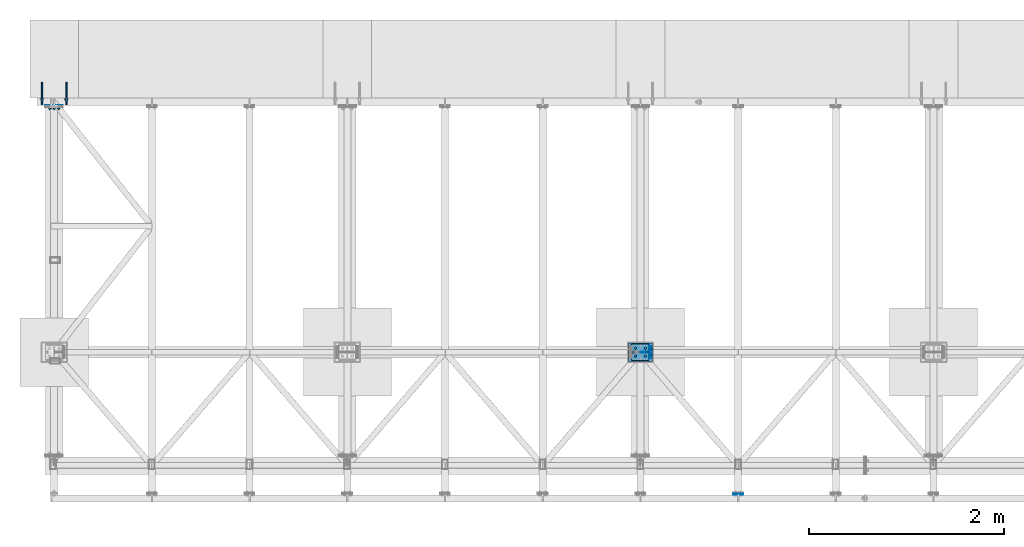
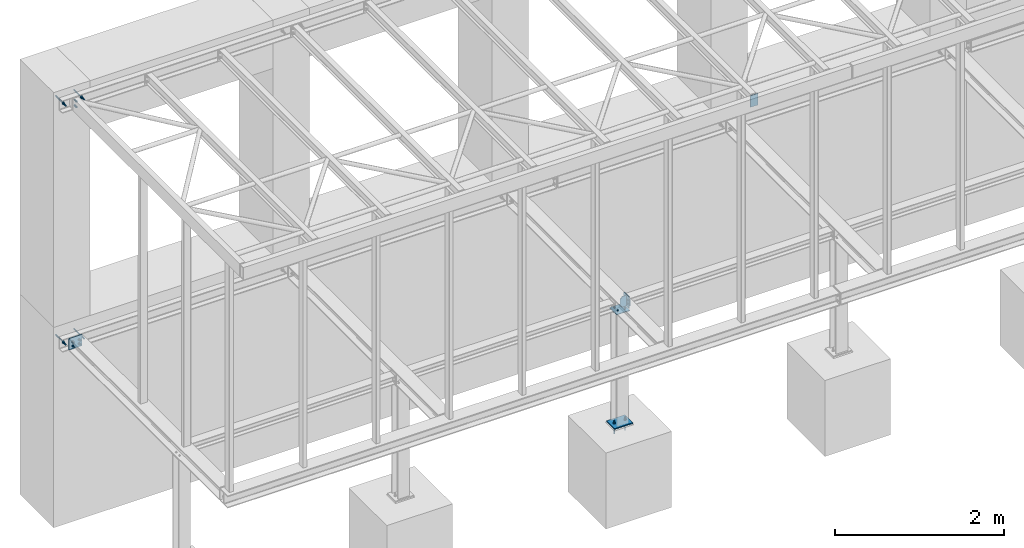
# One storey, part 14 of 22: 7 discrete accessories, 7 mechanical fasteners, 7 elements without a shape of their own.
"""IFC2X3 building model written with IfcOpenShell, lengths in millimetres."""

from ifc_helpers import new_model, si_unit, frame, frame_2d, origin_with_axes, origin_2d_with_axis, place, context, subcontext, project, spatial, polyline, circle_curve, parameter, trimmed, segment, composite_curve, circle, outline, extrude, source, transform, mapped, material, type_object, element, aggregate, save


model = new_model("IFC2X3")

# Units and contexts
model_context = context("Model", 3, precision=1e-05, world=origin_with_axes())
body_context = subcontext(model_context, "Body", "Model", "MODEL_VIEW")
ifc_project = project(units=[si_unit("LENGTHUNIT", "METRE", prefix="MILLI"), si_unit("AREAUNIT", "SQUARE_METRE"), si_unit("VOLUMEUNIT", "CUBIC_METRE"), si_unit("MASSUNIT", "GRAM", prefix="KILO"), si_unit("TIMEUNIT", "SECOND"), si_unit("PLANEANGLEUNIT", "RADIAN"), si_unit("SOLIDANGLEUNIT", "STERADIAN"), si_unit("THERMODYNAMICTEMPERATUREUNIT", "DEGREE_CELSIUS"), si_unit("LUMINOUSINTENSITYUNIT", "LUMEN")], contexts=[model_context])

# Site, building, storey
site_placement = place(None, origin_with_axes())
site = spatial("IfcSite", under=ifc_project, at=site_placement, Name="Undefined", CompositionType="ELEMENT")
building_placement = place(site_placement, origin_with_axes())
building = spatial("IfcBuilding", under=site, at=building_placement, Name="Undefined", CompositionType="ELEMENT")
storey_placement = place(building_placement, origin_with_axes())
storey = spatial("IfcBuildingStorey", under=building, at=storey_placement, Name="Undefined", CompositionType="ELEMENT", Elevation=0.0)

# Assembly, mechanical fastener
assembly_1_placement = place(storey_placement, origin_with_axes())
assembly_1 = element("IfcElementAssembly", 1, at=assembly_1_placement, inside=storey, Name="Steel Assembly", AssemblyPlace="NOTDEFINED", PredefinedType="RIGID_FRAME")
ifc_material_1 = material(Name="Undefined")
discrete_accessory_type_1 = type_object("IfcDiscreteAccessoryType", Name="Bolt assembly")
shared_shape_1 = source(origin_with_axes(), body_context, "Body", "SweptSolid", [
    extrude(circle(Radius=9.0, at=origin_2d_with_axis()), frame((0.0, -15.0, 0.0), z_axis=(0.0, 1.0, 0.0), x_axis=(1.0, 0.0, 0.0)), (0.0, 0.0, 1.0), 15.1),
    extrude(outline(polyline([(7.73649338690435, 0.0), (3.86824669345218, 6.69999980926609), (-3.86824669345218, 6.69999980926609), (-7.73649338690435, 0.0), (-3.86824669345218, -6.69999980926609), (3.86824669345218, -6.69999980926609), (7.73649338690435, 0.0)])), frame((0.0, -147.0, 0.0), z_axis=(0.0, 1.0, 0.0), x_axis=(1.0, 0.0, 0.0)), (0.0, 0.0, 1.0), 132.0),
    extrude(circle(Radius=8.0, at=origin_2d_with_axis()), frame((0.0, -15.0, 0.0), z_axis=(0.0, 1.0, 0.0), x_axis=(1.0, 0.0, 0.0)), (0.0, 0.0, 1.0), 58.0),
    extrude(circle(Radius=15.0, at=origin_2d_with_axis()), frame((0.0, 0.0, 0.0), z_axis=(0.0, 1.0, 0.0), x_axis=(1.0, 0.0, 0.0)), (0.0, 0.0, 1.0), 3.0),
    extrude(outline(polyline([(15.4441197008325, 0.0), (7.72205985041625, 13.3750000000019), (-7.72205985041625, 13.3750000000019), (-15.4441197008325, 0.0), (-7.72205985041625, -13.3750000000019), (7.72205985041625, -13.3750000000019), (15.4441197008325, 0.0)])), frame((0.0, 3.0, 0.0), z_axis=(0.0, 1.0, 0.0), x_axis=(1.0, 0.0, 0.0)), (0.0, 0.0, 1.0), 13.0),
])
mechanical_fastener_1_placement = place(assembly_1_placement, frame((5975.0, 1260.0, -1975.0), z_axis=(0.0, -1.0, 0.0), x_axis=(1.0, 0.0, 0.0)))
mechanical_fastener_1 = element("IfcMechanicalFastener", 2, at=mechanical_fastener_1_placement, type_object=discrete_accessory_type_1, material=ifc_material_1, Name="Bolt assembly", NominalDiameter=16.0, NominalLength=58.0, context=body_context, shape_type="MappedRepresentation", body=[
    mapped(shared_shape_1, transform((0.0, 0.0, 0.0))),
    mapped(shared_shape_1, transform((150.0, 0.0, 0.0))),
])

# Assembly, discrete accessory
assembly_2_placement = place(storey_placement, origin_with_axes())
assembly_2 = element("IfcElementAssembly", 3, at=assembly_2_placement, inside=storey, Name="Steel Assembly", AssemblyPlace="NOTDEFINED", PredefinedType="RIGID_FRAME")
ifc_material_2 = material(Name="STEEL/S235JR")
discrete_accessory_type_2 = type_object("IfcDiscreteAccessoryType", Name="PLECH")
discrete_accessory_1_placement = place(assembly_2_placement, frame((7000.0, -195.0, 3127.5), z_axis=(0.0, 1.0, 0.0), x_axis=(0.0, 0.0, 1.0)))
discrete_accessory_1 = element("IfcDiscreteAccessory", 4, at=discrete_accessory_1_placement, type_object=discrete_accessory_type_2, material=ifc_material_2, Name="PLECH", ObjectType="PL10*100", context=body_context, shape_type="SweptSolid", body=[
    extrude(outline(polyline([(0.0, 0.0), (166.000015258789, 0.0), (166.000015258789, 100.0), (-9.09494701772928e-13, 100.0), (0.0, 0.0)])), frame((0.0, 0.0, -5.0), z_axis=(0.0, 0.0, 1.0), x_axis=(1.0, 0.0, 0.0)), (0.0, 0.0, 1.0), 10.0),
])
aggregate(assembly_2, [discrete_accessory_1])

# Discrete accessory
discrete_accessory_2_placement = place(assembly_1_placement, frame((6140.0, 1346.0, -345.0), z_axis=(0.0, 0.0, 1.0), x_axis=(-1.0, 0.0, 0.0)))
discrete_accessory_2 = element("IfcDiscreteAccessory", 5, at=discrete_accessory_2_placement, type_object=discrete_accessory_type_2, material=ifc_material_2, Name="PLECH", ObjectType="PL10*172", context=body_context, shape_type="SweptSolid", body=[
    extrude(outline(polyline([(0.0, 0.0), (180.0, 0.0), (180.0, 172.0), (0.0, 172.0), (0.0, 0.0)])), frame((0.0, 0.0, -5.0), z_axis=(0.0, 0.0, 1.0), x_axis=(1.0, 0.0, 0.0)), (0.0, 0.0, 1.0), 10.0),
])

# Assembly, discrete accessory
assembly_3_placement = place(storey_placement, origin_with_axes())
assembly_3 = element("IfcElementAssembly", 6, at=assembly_3_placement, inside=storey, Name="Steel Assembly", AssemblyPlace="NOTDEFINED", PredefinedType="RIGID_FRAME")
discrete_accessory_3_placement = place(assembly_3_placement, frame((6155.0, 1200.0, -299.0), z_axis=(-1.0, 0.0, 0.0), x_axis=(0.0, 0.0, 1.0)))
discrete_accessory_3 = element("IfcDiscreteAccessory", 7, at=discrete_accessory_3_placement, type_object=discrete_accessory_type_2, material=ifc_material_2, Name="PLECH", ObjectType="PL10*98", context=body_context, shape_type="SweptSolid", body=[
    extrude(outline(polyline([(0.0, 0.0), (98.0, 4.54747350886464e-13), (98.0, 120.0), (0.0, 120.0), (0.0, 0.0)])), frame((0.0, 0.0, -5.0), z_axis=(0.0, 0.0, 1.0), x_axis=(1.0, 0.0, 0.0)), (0.0, 0.0, 1.0), 10.0),
])
aggregate(assembly_3, [discrete_accessory_3])

# Assembly, discrete accessories
assembly_4_placement = place(storey_placement, origin_with_axes())
assembly_4 = element("IfcElementAssembly", 8, at=assembly_4_placement, inside=storey, Name="Steel Assembly", AssemblyPlace="NOTDEFINED", PredefinedType="RIGID_FRAME")
discrete_accessory_4_placement = place(assembly_4_placement, frame((6140.0, 1260.0, -174.0), z_axis=(0.0, -1.0, 0.0), x_axis=(-1.0, 0.0, 0.0)))
discrete_accessory_4 = element("IfcDiscreteAccessory", 9, at=discrete_accessory_4_placement, type_object=discrete_accessory_type_2, material=ifc_material_2, Name="PLECH", ObjectType="PL8*86", context=body_context, shape_type="SweptSolid", body=[
    extrude(outline(composite_curve([segment(polyline([(0.0, 0.0), (60.5, 0.0)]), True, "CONTINUOUS"), segment(trimmed(circle_curve(frame_2d((85.5, 0.0), x_axis=(-1.0, 0.0)), 25.0), [parameter(0.0)], [parameter(4.71238898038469)], False, "PARAMETER"), True, "CONTINUOUS"), segment(polyline([(85.5, 25.0), (85.5, 127.0)]), True, "CONTINUOUS"), segment(trimmed(circle_curve(frame_2d((85.5, 152.0), x_axis=(0.0, -1.0)), 25.0), [parameter(0.0)], [parameter(4.71238898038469)], False, "PARAMETER"), True, "CONTINUOUS"), segment(polyline([(60.5, 152.0), (0.0, 152.0), (0.0, 0.0)]), True, "DISCONTINUOUS")], self_intersect=False)), frame((0.0, 0.0, -4.0), z_axis=(0.0, 0.0, 1.0), x_axis=(1.0, 0.0, 0.0)), (0.0, 0.0, 1.0), 8.0),
])
discrete_accessory_5_placement = place(assembly_4_placement, frame((6145.0, 1200.0, -332.0), z_axis=(-1.0, 0.0, 0.0), x_axis=(0.0, 0.0, 1.0)))
discrete_accessory_5 = element("IfcDiscreteAccessory", 10, at=discrete_accessory_5_placement, type_object=discrete_accessory_type_2, material=ifc_material_2, Name="PLECH", ObjectType="PL10*120", context=body_context, shape_type="SweptSolid", body=[
    extrude(outline(polyline([(0.0, 0.0), (164.0, 4.54747350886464e-13), (164.0, 120.0), (0.0, 120.0), (0.0, 0.0)])), frame((0.0, 0.0, -5.0), z_axis=(0.0, 0.0, 1.0), x_axis=(1.0, 0.0, 0.0)), (0.0, 0.0, 1.0), 10.0),
])

# Discrete accessory
discrete_accessory_6_placement = place(assembly_1_placement, frame((6175.0, 1356.0, -1982.5), z_axis=(0.0, 0.0, 1.0), x_axis=(-1.0, 0.0, 0.0)))
discrete_accessory_6 = element("IfcDiscreteAccessory", 11, at=discrete_accessory_6_placement, type_object=discrete_accessory_type_2, material=ifc_material_2, Name="PLECH", ObjectType="PL15*192", context=body_context, shape_type="SweptSolid", body=[
    extrude(outline(polyline([(0.0, 0.0), (250.0, 0.0), (250.0, 192.0), (0.0, 192.0), (0.0, 0.0)])), frame((0.0, 0.0, -7.5), z_axis=(0.0, 0.0, 1.0), x_axis=(1.0, 0.0, 0.0)), (0.0, 0.0, 1.0), 15.0),
])

# Assembly, discrete accessory
assembly_5_placement = place(storey_placement, origin_with_axes())
assembly_5 = element("IfcElementAssembly", 12, at=assembly_5_placement, inside=storey, Name="Steel Assembly", AssemblyPlace="NOTDEFINED", PredefinedType="RIGID_FRAME")
discrete_accessory_7_placement = place(assembly_5_placement, frame((-40.0, 3780.0, -168.0), z_axis=(0.0, 1.0, 0.0), x_axis=(1.0, 0.0, 0.0)))
discrete_accessory_7 = element("IfcDiscreteAccessory", 13, at=discrete_accessory_7_placement, type_object=discrete_accessory_type_2, material=ifc_material_2, Name="PLECH", ObjectType="PL10*164", context=body_context, shape_type="SweptSolid", body=[
    extrude(outline(polyline([(0.0, 0.0), (180.0, 0.0), (180.0, 164.0), (0.0, 164.0), (0.0, 0.0)])), frame((0.0, 0.0, -5.0), z_axis=(0.0, 0.0, 1.0), x_axis=(1.0, 0.0, 0.0)), (0.0, 0.0, 1.0), 10.0),
])

# Assembly, mechanical fastener
assembly_6_placement = place(storey_placement, origin_with_axes())
assembly_6 = element("IfcElementAssembly", 14, at=assembly_6_placement, inside=storey, Name="CONCRETE_SLAB", AssemblyPlace="NOTDEFINED", PredefinedType="REINFORCEMENT_UNIT")
mechanical_fastener_type = type_object("IfcMechanicalFastenerType", Name="Bolt assembly")
shared_shape_2 = source(origin_with_axes(), body_context, "Body", "SweptSolid", [
    extrude(circle(Radius=9.0, at=origin_2d_with_axis()), frame((0.0, -10.1, 0.0), z_axis=(0.0, 1.0, 0.0), x_axis=(1.0, 0.0, 0.0)), (0.0, 0.0, 1.0), 10.1),
    extrude(circle(Radius=9.0, at=origin_2d_with_axis()), frame((0.0, -19.9, 0.0), z_axis=(0.0, 1.0, 0.0), x_axis=(1.0, 0.0, 0.0)), (0.0, 0.0, 1.0), 10.0),
    extrude(outline(polyline([(13.85640646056, 0.0), (6.92820323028, 12.0000000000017), (-6.92820323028, 12.0000000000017), (-13.85640646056, 0.0), (-6.92820323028, -12.0000000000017), (6.92820323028, -12.0000000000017), (13.85640646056, 0.0)])), frame((0.0, -33.0, 0.0), z_axis=(0.0, 1.0, 0.0), x_axis=(1.0, 0.0, 0.0)), (0.0, 0.0, 1.0), 10.0),
    extrude(circle(Radius=8.0, at=origin_2d_with_axis()), frame((0.0, -23.0, 0.0), z_axis=(0.0, 1.0, 0.0), x_axis=(1.0, 0.0, 0.0)), (0.0, 0.0, 1.0), 50.0),
    extrude(circle(Radius=15.0, at=origin_2d_with_axis()), frame((0.0, -23.0, 0.0), z_axis=(0.0, 1.0, 0.0), x_axis=(1.0, 0.0, 0.0)), (0.0, 0.0, 1.0), 3.0),
    extrude(circle(Radius=15.0, at=origin_2d_with_axis()), frame((0.0, 0.0, 0.0), z_axis=(0.0, 1.0, 0.0), x_axis=(1.0, 0.0, 0.0)), (0.0, 0.0, 1.0), 3.0),
    extrude(outline(polyline([(15.4441197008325, 0.0), (7.72205985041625, 13.3750000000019), (-7.72205985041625, 13.3750000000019), (-15.4441197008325, 0.0), (-7.72205985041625, -13.3750000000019), (7.72205985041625, -13.3750000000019), (15.4441197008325, 0.0)])), frame((0.0, 3.0, 0.0), z_axis=(0.0, 1.0, 0.0), x_axis=(1.0, 0.0, 0.0)), (0.0, 0.0, 1.0), 13.0),
])
mechanical_fastener_2_placement = place(assembly_6_placement, frame((50.0, 3765.0, 3210.0), z_axis=(0.0, 0.0, 1.0), x_axis=(-1.0, 0.0, 0.0)))
mechanical_fastener_2 = element("IfcMechanicalFastener", 15, at=mechanical_fastener_2_placement, type_object=mechanical_fastener_type, material=ifc_material_1, Name="Bolt assembly", NominalDiameter=16.0, NominalLength=50.0, context=body_context, shape_type="MappedRepresentation", body=[
    mapped(shared_shape_2, transform((0.0, 0.0, -40.0))),
    mapped(shared_shape_2, transform((0.0, 0.0, 40.0))),
])
aggregate(assembly_6, [mechanical_fastener_2])

# Mechanical fastener
shared_shape_3 = source(origin_with_axes(), body_context, "Body", "SweptSolid", [
    extrude(circle(Radius=6.5, at=origin_2d_with_axis()), frame((0.0, -13.9, 0.0), z_axis=(0.0, 1.0, 0.0), x_axis=(1.0, 0.0, 0.0)), (0.0, 0.0, 1.0), 14.0),
    extrude(circle(Radius=6.5, at=origin_2d_with_axis()), frame((0.0, -0.1, 0.0), z_axis=(0.0, 1.0, 0.0), x_axis=(1.0, 0.0, 0.0)), (0.0, 0.0, 1.0), 10.1),
    extrude(outline(polyline([(10.39230484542, 0.0), (5.19615242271, 9.00000000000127), (-5.19615242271, 9.00000000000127), (-10.39230484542, 0.0), (-5.19615242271, -9.00000000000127), (5.19615242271, -9.00000000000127), (10.39230484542, 0.0)])), frame((0.0, -24.0, 0.0), z_axis=(0.0, 1.0, 0.0), x_axis=(1.0, 0.0, 0.0)), (0.0, 0.0, 1.0), 7.5),
    extrude(circle(Radius=6.0, at=origin_2d_with_axis()), frame((0.0, -16.5, 0.0), z_axis=(0.0, 1.0, 0.0), x_axis=(1.0, 0.0, 0.0)), (0.0, 0.0, 1.0), 45.0),
    extrude(circle(Radius=12.0, at=origin_2d_with_axis()), frame((0.0, -16.5, 0.0), z_axis=(0.0, 1.0, 0.0), x_axis=(1.0, 0.0, 0.0)), (0.0, 0.0, 1.0), 2.5),
    extrude(circle(Radius=12.0, at=origin_2d_with_axis()), frame((0.0, 10.0, 0.0), z_axis=(0.0, 1.0, 0.0), x_axis=(1.0, 0.0, 0.0)), (0.0, 0.0, 1.0), 2.5),
    extrude(outline(polyline([(10.96965511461, 0.0), (5.484827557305, 9.50000000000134), (-5.484827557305, 9.50000000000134), (-10.96965511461, 0.0), (-5.484827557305, -9.50000000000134), (5.484827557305, -9.50000000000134), (10.96965511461, 0.0)])), frame((0.0, 12.5, 0.0), z_axis=(0.0, 1.0, 0.0), x_axis=(1.0, 0.0, 0.0)), (0.0, 0.0, 1.0), 10.0),
])
mechanical_fastener_3_placement = place(assembly_1_placement, frame((6000.0, 1260.0, -340.0), z_axis=(0.0, 1.0, 0.0), x_axis=(1.0, 0.0, 0.0)))
mechanical_fastener_3 = element("IfcMechanicalFastener", 16, at=mechanical_fastener_3_placement, type_object=discrete_accessory_type_1, material=ifc_material_1, Name="Bolt assembly", NominalDiameter=12.0, NominalLength=45.0, context=body_context, shape_type="MappedRepresentation", body=[
    mapped(shared_shape_3, transform((0.0, 0.0, -40.0))),
    mapped(shared_shape_3, transform((100.0, 0.0, -40.0))),
    mapped(shared_shape_3, transform((0.0, 0.0, 40.0))),
    mapped(shared_shape_3, transform((100.0, 0.0, 40.0))),
])

aggregate(assembly_1, [mechanical_fastener_3, discrete_accessory_2, mechanical_fastener_1, discrete_accessory_6])

# Assembly, mechanical fastener
assembly_7_placement = place(storey_placement, origin_with_axes())
assembly_7 = element("IfcElementAssembly", 17, at=assembly_7_placement, inside=storey, Name="Steel Assembly", AssemblyPlace="NOTDEFINED", PredefinedType="RIGID_FRAME")
shared_shape_4 = source(origin_with_axes(), body_context, "Body", "SweptSolid", [
    extrude(circle(Radius=11.0, at=origin_2d_with_axis()), frame((0.0, -5.5, 0.0), z_axis=(0.0, 1.0, 0.0), x_axis=(1.0, 0.0, 0.0)), (0.0, 0.0, 1.0), 5.6),
    extrude(outline(polyline([(9.81495457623, 0.0), (4.907477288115, 8.5000000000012), (-4.907477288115, 8.5000000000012), (-9.81495457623, 0.0), (-4.907477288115, -8.5000000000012), (4.907477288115, -8.5000000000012), (9.81495457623, 0.0)])), frame((0.0, -173.5, 0.0), z_axis=(0.0, 1.0, 0.0), x_axis=(1.0, 0.0, 0.0)), (0.0, 0.0, 1.0), 168.0),
    extrude(circle(Radius=10.0, at=origin_2d_with_axis()), frame((0.0, -5.5, 0.0), z_axis=(0.0, 1.0, 0.0), x_axis=(1.0, 0.0, 0.0)), (0.0, 0.0, 1.0), 72.0),
    extrude(circle(Radius=18.5, at=origin_2d_with_axis()), frame((0.0, 0.0, 0.0), z_axis=(0.0, 1.0, 0.0), x_axis=(1.0, 0.0, 0.0)), (0.0, 0.0, 1.0), 3.0),
    extrude(outline(polyline([(17.3205080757, 0.0), (8.66025403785, 15.0000000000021), (-8.66025403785, 15.0000000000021), (-17.3205080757, 0.0), (-8.66025403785, -15.0000000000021), (8.66025403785, -15.0000000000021), (17.3205080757, 0.0)])), frame((0.0, 3.0, 0.0), z_axis=(0.0, 1.0, 0.0), x_axis=(1.0, 0.0, 0.0)), (0.0, 0.0, 1.0), 16.0),
])
mechanical_fastener_4_placement = place(assembly_7_placement, frame((-75.0, 3854.5, 3210.0), z_axis=(0.0, 0.0, -1.0), x_axis=(1.0, 0.0, 0.0)))
mechanical_fastener_4 = element("IfcMechanicalFastener", 18, at=mechanical_fastener_4_placement, type_object=discrete_accessory_type_1, material=ifc_material_1, Name="Bolt assembly", NominalDiameter=20.0, NominalLength=72.0, context=body_context, shape_type="MappedRepresentation", body=[
    mapped(shared_shape_4, transform((0.0, 0.0, 0.0))),
    mapped(shared_shape_4, transform((250.0, 0.0, 0.0))),
])
aggregate(assembly_7, [mechanical_fastener_4])

# Mechanical fastener
mechanical_fastener_5_placement = place(assembly_5_placement, frame((-75.0, 3854.5, -250.0), z_axis=(0.0, 0.0, -1.0), x_axis=(1.0, 0.0, 0.0)))
mechanical_fastener_5 = element("IfcMechanicalFastener", 19, at=mechanical_fastener_5_placement, type_object=discrete_accessory_type_1, material=ifc_material_1, Name="Bolt assembly", NominalDiameter=20.0, NominalLength=72.0, context=body_context, shape_type="MappedRepresentation", body=[
    mapped(shared_shape_4, transform((0.0, 0.0, 0.0))),
    mapped(shared_shape_4, transform((250.0, 0.0, 0.0))),
])

shared_shape_5 = source(origin_with_axes(), body_context, "Body", "SweptSolid", [
    extrude(circle(Radius=6.5, at=origin_2d_with_axis()), frame((0.0, -4.1, 0.0), z_axis=(0.0, 1.0, 0.0), x_axis=(1.0, 0.0, 0.0)), (0.0, 0.0, 1.0), 10.1),
    extrude(circle(Radius=6.5, at=origin_2d_with_axis()), frame((0.0, -13.9, 0.0), z_axis=(0.0, 1.0, 0.0), x_axis=(1.0, 0.0, 0.0)), (0.0, 0.0, 1.0), 10.0),
    extrude(outline(polyline([(10.39230484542, 0.0), (5.19615242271, 9.00000000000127), (-5.19615242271, 9.00000000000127), (-10.39230484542, 0.0), (-5.19615242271, -9.00000000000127), (5.19615242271, -9.00000000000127), (10.39230484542, 0.0)])), frame((0.0, -24.0, 0.0), z_axis=(0.0, 1.0, 0.0), x_axis=(1.0, 0.0, 0.0)), (0.0, 0.0, 1.0), 7.5),
    extrude(circle(Radius=6.0, at=origin_2d_with_axis()), frame((0.0, -16.5, 0.0), z_axis=(0.0, 1.0, 0.0), x_axis=(1.0, 0.0, 0.0)), (0.0, 0.0, 1.0), 40.0),
    extrude(circle(Radius=12.0, at=origin_2d_with_axis()), frame((0.0, -16.5, 0.0), z_axis=(0.0, 1.0, 0.0), x_axis=(1.0, 0.0, 0.0)), (0.0, 0.0, 1.0), 2.5),
    extrude(circle(Radius=12.0, at=origin_2d_with_axis()), frame((0.0, 6.0, 0.0), z_axis=(0.0, 1.0, 0.0), x_axis=(1.0, 0.0, 0.0)), (0.0, 0.0, 1.0), 2.5),
    extrude(outline(polyline([(10.96965511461, 0.0), (5.484827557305, 9.50000000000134), (-5.484827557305, 9.50000000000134), (-10.96965511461, 0.0), (-5.484827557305, -9.50000000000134), (5.484827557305, -9.50000000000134), (10.96965511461, 0.0)])), frame((0.0, 8.5, 0.0), z_axis=(0.0, 1.0, 0.0), x_axis=(1.0, 0.0, 0.0)), (0.0, 0.0, 1.0), 10.0),
])
mechanical_fastener_6_placement = place(assembly_4_placement, frame((6154.0, 1260.0, -225.0), z_axis=(0.0, -1.0, 0.0), x_axis=(0.0, 0.0, -1.0)))
mechanical_fastener_6 = element("IfcMechanicalFastener", 20, at=mechanical_fastener_6_placement, type_object=discrete_accessory_type_1, material=ifc_material_1, Name="Bolt assembly", NominalDiameter=12.0, NominalLength=40.0, context=body_context, shape_type="MappedRepresentation", body=[
    mapped(shared_shape_5, transform((0.0, 0.0, 30.0))),
    mapped(shared_shape_5, transform((50.0, 0.0, 30.0))),
    mapped(shared_shape_5, transform((0.0, 0.0, -30.0))),
    mapped(shared_shape_5, transform((50.0, 0.0, -30.0))),
])

aggregate(assembly_4, [mechanical_fastener_6, discrete_accessory_4, discrete_accessory_5])

shared_shape_6 = source(origin_with_axes(), body_context, "Body", "SweptSolid", [
    extrude(circle(Radius=9.0, at=origin_2d_with_axis()), frame((0.0, -0.1, 0.0), z_axis=(0.0, 1.0, 0.0), x_axis=(1.0, 0.0, 0.0)), (0.0, 0.0, 1.0), 8.1),
    extrude(circle(Radius=9.0, at=origin_2d_with_axis()), frame((0.0, -9.9, 0.0), z_axis=(0.0, 1.0, 0.0), x_axis=(1.0, 0.0, 0.0)), (0.0, 0.0, 1.0), 10.0),
    extrude(outline(polyline([(13.85640646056, 0.0), (6.92820323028, 12.0000000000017), (-6.92820323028, 12.0000000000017), (-13.85640646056, 0.0), (-6.92820323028, -12.0000000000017), (6.92820323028, -12.0000000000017), (13.85640646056, 0.0)])), frame((0.0, -23.0, 0.0), z_axis=(0.0, 1.0, 0.0), x_axis=(1.0, 0.0, 0.0)), (0.0, 0.0, 1.0), 10.0),
    extrude(circle(Radius=8.0, at=origin_2d_with_axis()), frame((0.0, -13.0, 0.0), z_axis=(0.0, 1.0, 0.0), x_axis=(1.0, 0.0, 0.0)), (0.0, 0.0, 1.0), 50.0),
    extrude(circle(Radius=15.0, at=origin_2d_with_axis()), frame((0.0, -13.0, 0.0), z_axis=(0.0, 1.0, 0.0), x_axis=(1.0, 0.0, 0.0)), (0.0, 0.0, 1.0), 3.0),
    extrude(circle(Radius=15.0, at=origin_2d_with_axis()), frame((0.0, 8.0, 0.0), z_axis=(0.0, 1.0, 0.0), x_axis=(1.0, 0.0, 0.0)), (0.0, 0.0, 1.0), 3.0),
    extrude(outline(polyline([(15.4441197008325, 0.0), (7.72205985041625, 13.3750000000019), (-7.72205985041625, 13.3750000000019), (-15.4441197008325, 0.0), (-7.72205985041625, -13.3750000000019), (7.72205985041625, -13.3750000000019), (15.4441197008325, 0.0)])), frame((0.0, 11.0, 0.0), z_axis=(0.0, 1.0, 0.0), x_axis=(1.0, 0.0, 0.0)), (0.0, 0.0, 1.0), 13.0),
])
mechanical_fastener_7_placement = place(assembly_5_placement, frame((5.0, 3775.0, -250.0), z_axis=(0.0, 0.0, -1.0), x_axis=(1.0, 0.0, 0.0)))
mechanical_fastener_7 = element("IfcMechanicalFastener", 21, at=mechanical_fastener_7_placement, type_object=discrete_accessory_type_1, material=ifc_material_1, Name="Bolt assembly", NominalDiameter=16.0, NominalLength=50.0, context=body_context, shape_type="MappedRepresentation", body=[
    mapped(shared_shape_6, transform((0.0, 0.0, -30.0))),
    mapped(shared_shape_6, transform((90.0, 0.0, -30.0))),
    mapped(shared_shape_6, transform((0.0, 0.0, 30.0))),
    mapped(shared_shape_6, transform((90.0, 0.0, 30.0))),
])

aggregate(assembly_5, [mechanical_fastener_5, mechanical_fastener_7, discrete_accessory_7])

save(model, "model.ifc")
